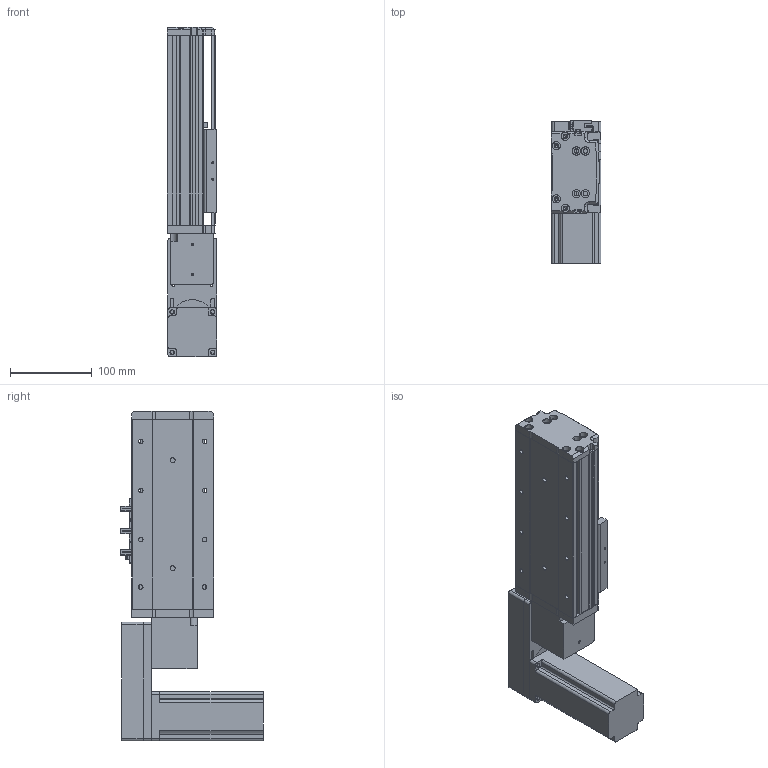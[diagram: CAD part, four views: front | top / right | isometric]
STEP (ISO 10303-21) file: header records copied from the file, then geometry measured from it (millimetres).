
FILE_DESCRIPTION (( 'STEP AP214' ), '1' );
FILE_NAME ('KSD100B-S50-MLB-CM.STEP', '2019-08-31T01:24:14', ( '微软用户' ), ( '微软中国' ), 'SwSTEP 2.0', 'SolidWorks 2014', '' );
FILE_SCHEMA (( 'AUTOMOTIVE_DESIGN' ));
Length unit declared in the file: millimetre
Products named in the file (12): 台达ECMA－C20604AS伺服电机; U倰嫖萇EEㄜSX672; 覜茼え100遵圉猾敕; 100宽防尘板50行程-同步带; 100宽马达安装板同步带左; 100宽同步带安装板半封闭; 100宽马达安装板同步带; 100遵傷啣肮祭湍; 100宽底板半封闭同步带50行程; KSD100B-S50-MLB-CM; 悵誘欶奻狟殏; 100宽马达安装板连板上下折丝杆同步带
Assembly tree (13 placements, depth 2):
  KSD100B-S50-MLB-CM
    100宽底板半封闭同步带50行程
    100遵傷啣肮祭湍
    100宽马达安装板同步带
    100宽同步带安装板半封闭
    100宽马达安装板同步带左
    100宽防尘板50行程-同步带
    覜茼え100遵圉猾敕
    U倰嫖萇EEㄜSX672  x3
    台达ECMA－C20604AS伺服电机
    100宽马达安装板连板上下折丝杆同步带
    悵誘欶奻狟殏
Bounding box: 61 x 174.7 x 403 mm (x, y, z)
Volume: 1230239.6 mm3; surface area: 354851.5 mm2
Topology: 14 solids, 14 shells, 1233 faces, 3440 edges, 2227 vertices
Faces by surface type: cylinder 591, plane 567, cone 75
Entity records: 42037 total; most frequent: CARTESIAN_POINT 7412, DIRECTION 5892, ORIENTED_EDGE 5636, EDGE_CURVE 2818, AXIS2_PLACEMENT_3D 2125, VERTEX_POINT 1851, VECTOR 1642, LINE 1642
